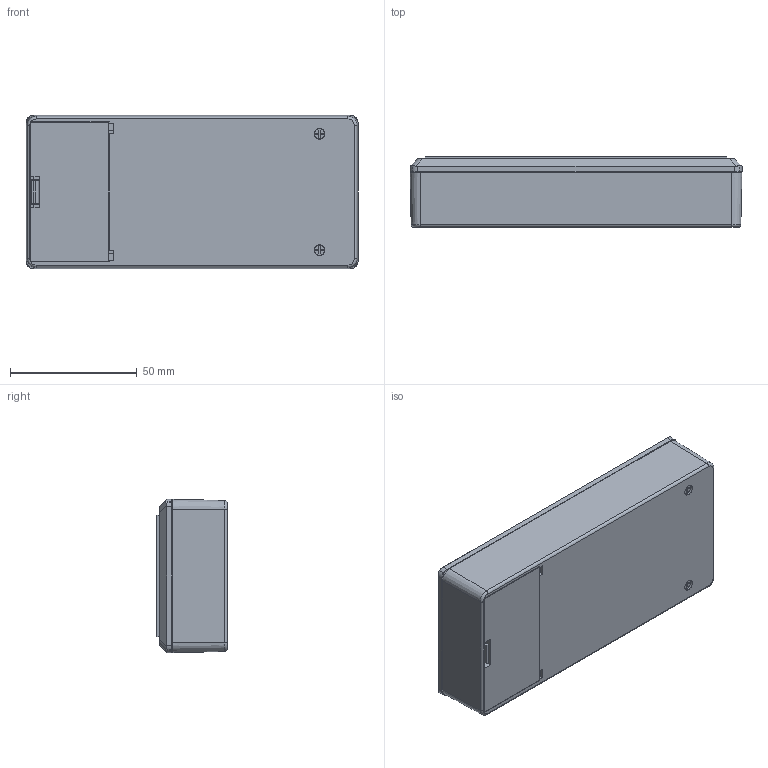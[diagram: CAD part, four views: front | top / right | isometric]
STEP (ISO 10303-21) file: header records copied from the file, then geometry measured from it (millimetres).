
FILE_DESCRIPTION (( 'STEP AP214' ), '1' );
FILE_NAME ('Conjunt PP5.STEP', '2016-12-28T20:57:45', ( 'aaa' ), ( '' ), 'SwSTEP 2.0', 'SolidWorks 2013', '' );
FILE_SCHEMA (( 'AUTOMOTIVE_DESIGN' ));
Length unit declared in the file: millimetre
Products named in the file (7): Conector; Tapeta; Cargol 2,2x15,78 PP5; Cargol 2,2x6,95 PP5; Tapa PP5; Cos PP5; Conjunt PP5
Assembly tree (12 placements, depth 2):
  Conjunt PP5
    Cos PP5
    Tapa PP5
    Cargol 2,2x6,95 PP5  x3
    Cargol 2,2x15,78 PP5  x2
    Tapeta
    Conector  x4
Bounding box: 131 x 27.76 x 60.5 mm (x, y, z)
Volume: 59893 mm3; surface area: 61439.5 mm2
Topology: 14 solids, 14 shells, 888 faces, 2156 edges, 1305 vertices
Faces by surface type: plane 428, cone 364, cylinder 88, bspline 4, torus 4
Entity records: 17445 total; most frequent: CARTESIAN_POINT 3153, ORIENTED_EDGE 2896, DIRECTION 2883, EDGE_CURVE 1448, LINE 1127, VECTOR 1127, VERTEX_POINT 906, AXIS2_PLACEMENT_3D 878
